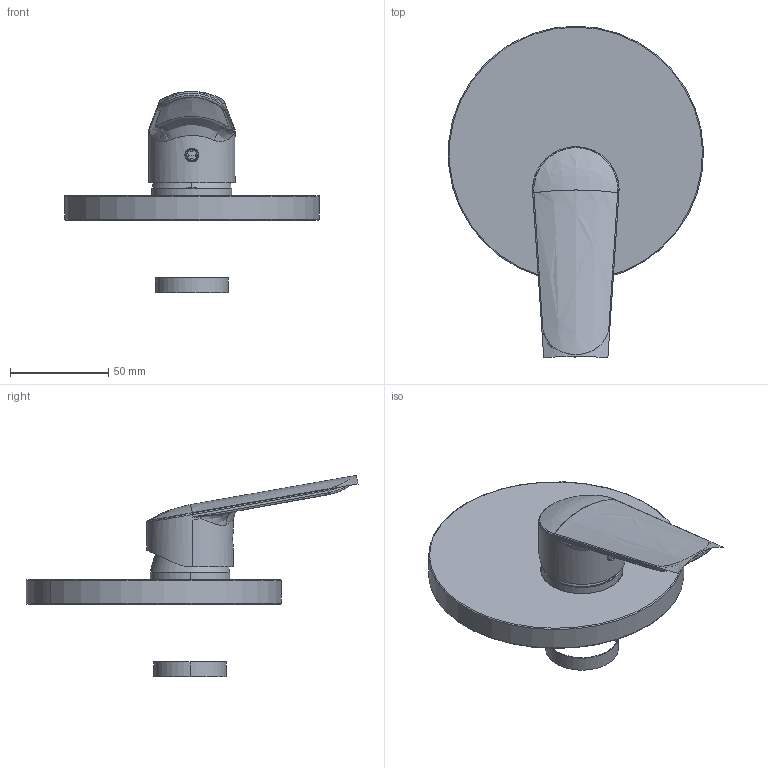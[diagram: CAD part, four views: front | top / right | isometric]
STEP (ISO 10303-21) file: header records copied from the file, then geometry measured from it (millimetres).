
FILE_DESCRIPTION((''),'2;1');
FILE_NAME('F3009E1_ASM','2023-03-22T13:03:38',('samuelef'),(''),'CREO PARAMETRIC BY PTC INC, 2021184','CREO PARAMETRIC BY PTC INC, 2021184','');
FILE_SCHEMA(('CONFIG_CONTROL_DESIGN'));
Length unit declared in the file: millimetre
Products named in the file (8): 5486CRO_AF20; 4618TAMC; AKART35N_AF20_ASM; 1832-01ZCRO_AF8; 4753_LEVA_LAVABO_00; 7384_BOTTONE_CROMATO_D_5_5; 2034_36INS_ASM; F3009E1_ASM
Assembly tree (7 placements, depth 3):
  F3009E1_ASM
    AKART35N_AF20_ASM
      5486CRO_AF20
      4618TAMC
    1832-01ZCRO_AF8
    4753_LEVA_LAVABO_00
    2034_36INS_ASM
      7384_BOTTONE_CROMATO_D_5_5
Bounding box: 129.75 x 169.02 x 102.41 mm (x, y, z)
Volume: 78191.5 mm3; surface area: 72447.2 mm2
Topology: 5 solids, 11 shells, 1186 faces, 3115 edges, 1987 vertices
Faces by surface type: plane 652, bspline 201, extrusion 117, cylinder 105, torus 60, sphere 26, cone 25
Entity records: 46715 total; most frequent: CARTESIAN_POINT 19954, ORIENTED_EDGE 6174, DIRECTION 4366, EDGE_CURVE 3111, VERTEX_POINT 1987, VECTOR 1652, LINE 1535, AXIS2_PLACEMENT_3D 1357
